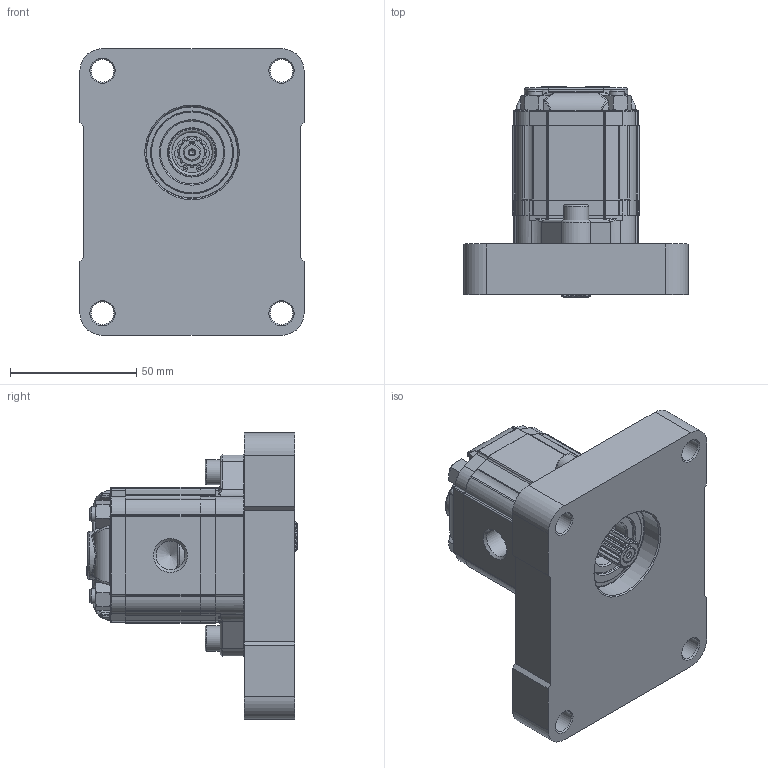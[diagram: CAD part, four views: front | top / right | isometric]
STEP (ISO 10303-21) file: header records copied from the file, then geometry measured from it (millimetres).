
FILE_DESCRIPTION( ( 'Unknown' ), '1' );
FILE_NAME( 'P:/montaggio_easy/output/STP/X0F0742GBBA.stp', 'Unknown', ( 'Unknown' ), ( 'Unknown' ), 'PSStep 14.0', 'Unknown', ' ' );
FILE_SCHEMA( ( 'AUTOMOTIVE_DESIGN { 1 0 10303 214 1 1 1 1 }' ) );
Length unit declared in the file: millimetre
Products named in the file (5): Assem1; X0F42; 0G; X0BBH35,5; XF004-A
Bounding box: 89 x 83.4 x 113.7 mm (x, y, z)
Volume: 644868.6 mm3; surface area: 119911.9 mm2
Topology: 8 solids, 10 shells, 2732 faces, 7042 edges, 4486 vertices
Faces by surface type: plane 1258, cylinder 738, extrusion 212, cone 210, torus 160, bspline 138, sphere 16
Full cylindrical faces by diameter (mm): 1.053 x4, 2 x2, 6 x8, 6.5 x4, 7.5 x4, 7.92 x2, 8 x4, 9 x8, 9.318 x2, 10 x4, 10.445 x2, 11 x2, 11.445 x4, 14 x2, 16 x2, 16.2 x2, 16.8 x2, 19 x2, 25 x2, 32.5 x2, 36.5 x2
Entity records: 57490 total; most frequent: CARTESIAN_POINT 13888, ORIENTED_EDGE 6788, DIRECTION 6638, EDGE_CURVE 3394, AXIS2_PLACEMENT_3D 2312, VERTEX_POINT 2211, VECTOR 2014, LINE 1908
